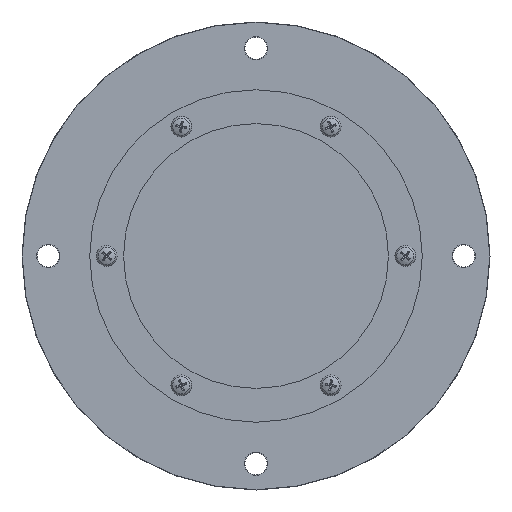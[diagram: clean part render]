
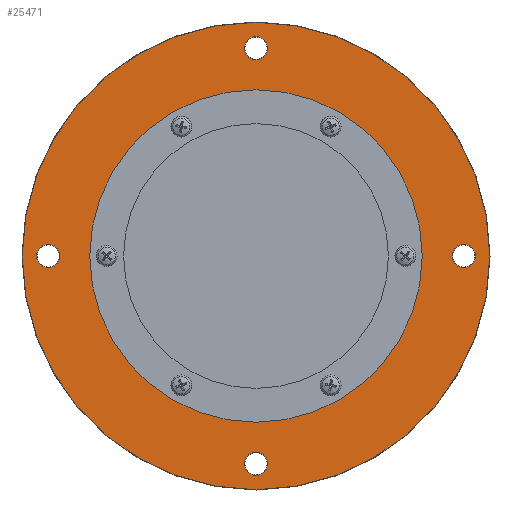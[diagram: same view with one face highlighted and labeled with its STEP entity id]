
A CAD part, front view. The second image highlights one B-rep face of the part: STEP entity #25471.
In plain terms, the highlighted planar face has unit normal (0, -1, 0).
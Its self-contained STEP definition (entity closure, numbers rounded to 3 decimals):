
#1599=FACE_BOUND('',#4326,.T.);
#1600=FACE_BOUND('',#4327,.T.);
#1601=FACE_BOUND('',#4328,.T.);
#1602=FACE_BOUND('',#4329,.T.);
#1603=FACE_BOUND('',#4330,.T.);
#1778=PLANE('',#27287);
#2781=FACE_OUTER_BOUND('',#4325,.T.);
#4325=EDGE_LOOP('',(#17509));
#4326=EDGE_LOOP('',(#17510));
#4327=EDGE_LOOP('',(#17511));
#4328=EDGE_LOOP('',(#17512));
#4329=EDGE_LOOP('',(#17513));
#4330=EDGE_LOOP('',(#17514));
#8584=CIRCLE('',#27288,90.);
#8585=CIRCLE('',#27289,4.5);
#8586=CIRCLE('',#27290,4.5);
#8587=CIRCLE('',#27291,4.5);
#8588=CIRCLE('',#27292,4.5);
#8589=CIRCLE('',#27293,62.5);
#10201=VERTEX_POINT('',#39769);
#10202=VERTEX_POINT('',#39771);
#10203=VERTEX_POINT('',#39773);
#10204=VERTEX_POINT('',#39775);
#10205=VERTEX_POINT('',#39777);
#10206=VERTEX_POINT('',#39779);
#12915=EDGE_CURVE('',#10201,#10201,#8584,.T.);
#12916=EDGE_CURVE('',#10202,#10202,#8585,.T.);
#12917=EDGE_CURVE('',#10203,#10203,#8586,.T.);
#12918=EDGE_CURVE('',#10204,#10204,#8587,.T.);
#12919=EDGE_CURVE('',#10205,#10205,#8588,.T.);
#12920=EDGE_CURVE('',#10206,#10206,#8589,.T.);
#17509=ORIENTED_EDGE('',*,*,#12915,.T.);
#17510=ORIENTED_EDGE('',*,*,#12916,.T.);
#17511=ORIENTED_EDGE('',*,*,#12917,.T.);
#17512=ORIENTED_EDGE('',*,*,#12918,.T.);
#17513=ORIENTED_EDGE('',*,*,#12919,.T.);
#17514=ORIENTED_EDGE('',*,*,#12920,.F.);
#25471=ADVANCED_FACE('',(#2781,#1599,#1600,#1601,#1602,#1603),#1778,.T.);
#27287=AXIS2_PLACEMENT_3D('',#39768,#31070,#31071);
#27288=AXIS2_PLACEMENT_3D('',#39770,#31072,#31073);
#27289=AXIS2_PLACEMENT_3D('',#39772,#31074,#31075);
#27290=AXIS2_PLACEMENT_3D('',#39774,#31076,#31077);
#27291=AXIS2_PLACEMENT_3D('',#39776,#31078,#31079);
#27292=AXIS2_PLACEMENT_3D('',#39778,#31080,#31081);
#27293=AXIS2_PLACEMENT_3D('',#39780,#31082,#31083);
#31070=DIRECTION('center_axis',(0.,-1.,0.));
#31071=DIRECTION('ref_axis',(1.,0.,0.));
#31072=DIRECTION('center_axis',(0.,-1.,0.));
#31073=DIRECTION('ref_axis',(1.,0.,0.));
#31074=DIRECTION('center_axis',(0.,1.,0.));
#31075=DIRECTION('ref_axis',(-1.,0.,0.));
#31076=DIRECTION('center_axis',(0.,1.,0.));
#31077=DIRECTION('ref_axis',(-1.,0.,0.));
#31078=DIRECTION('center_axis',(0.,1.,0.));
#31079=DIRECTION('ref_axis',(-1.,0.,0.));
#31080=DIRECTION('center_axis',(0.,1.,0.));
#31081=DIRECTION('ref_axis',(-1.,0.,0.));
#31082=DIRECTION('center_axis',(0.,-1.,0.));
#31083=DIRECTION('ref_axis',(0.866,0.,0.5));
#39768=CARTESIAN_POINT('Origin',(0.,-58.,0.));
#39769=CARTESIAN_POINT('',(-90.,-58.,0.));
#39770=CARTESIAN_POINT('Origin',(0.,-58.,0.));
#39771=CARTESIAN_POINT('',(4.5,-58.,80.));
#39772=CARTESIAN_POINT('Origin',(0.,-58.,
80.));
#39773=CARTESIAN_POINT('',(-75.5,-58.,0.));
#39774=CARTESIAN_POINT('Origin',(-80.,-58.,0.));
#39775=CARTESIAN_POINT('',(4.5,-58.,-80.));
#39776=CARTESIAN_POINT('Origin',(0.,-58.,
-80.));
#39777=CARTESIAN_POINT('',(84.5,-58.,0.));
#39778=CARTESIAN_POINT('Origin',(80.,-58.,0.));
#39779=CARTESIAN_POINT('',(-54.127,-58.,-31.25));
#39780=CARTESIAN_POINT('Origin',(0.,-58.,
0.));
